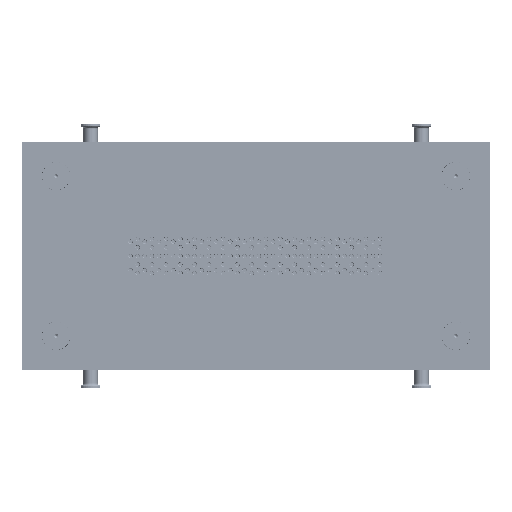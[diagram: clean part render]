
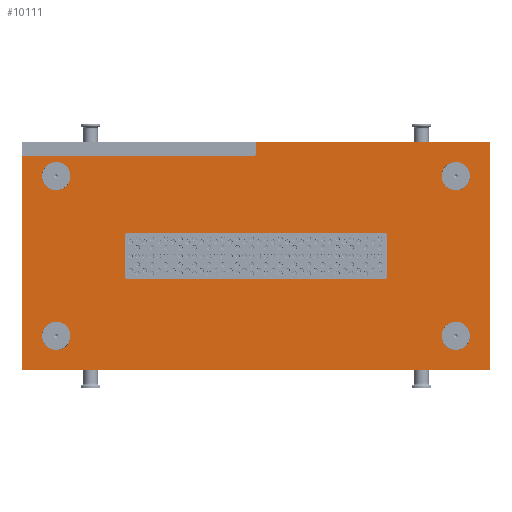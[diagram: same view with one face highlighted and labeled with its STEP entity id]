
A CAD part, left-side view. The second image highlights one B-rep face of the part: STEP entity #10111.
In plain terms, the highlighted planar face has unit normal (-1, 0, 0).
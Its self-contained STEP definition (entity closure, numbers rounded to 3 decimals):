
#10111=ADVANCED_FACE('',(#15616,#15618,#15620,#15622,#15624,#15626),#15628,.F.);
#15616=FACE_BOUND('',#15617,.T.);
#15617=EDGE_LOOP('',(#41220,#41221,#41222,#41223,#41224,#41225,#41226));
#15618=FACE_BOUND('',#15619,.T.);
#15619=EDGE_LOOP('',(#41227,#41228,#41229,#41230,#41231,#41232,#41233,#41234));
#15620=FACE_BOUND('',#15621,.T.);
#15621=EDGE_LOOP('',(#41235));
#15622=FACE_BOUND('',#15623,.T.);
#15623=EDGE_LOOP('',(#41236));
#15624=FACE_BOUND('',#15625,.T.);
#15625=EDGE_LOOP('',(#41237));
#15626=FACE_BOUND('',#15627,.T.);
#15627=EDGE_LOOP('',(#41238));
#15628=PLANE('',#15629);
#15629=AXIS2_PLACEMENT_3D('',#15630,#15631,#15632);
#15630=CARTESIAN_POINT('',(0.,0.,0.));
#15631=DIRECTION('',(1.,0.,0.));
#15632=DIRECTION('',(0.,1.,0.));
#41220=ORIENTED_EDGE('',*,*,#49375,.F.);
#41221=ORIENTED_EDGE('',*,*,#49372,.T.);
#41222=ORIENTED_EDGE('',*,*,#49302,.F.);
#41223=ORIENTED_EDGE('',*,*,#49311,.F.);
#41224=ORIENTED_EDGE('',*,*,#49309,.F.);
#41225=ORIENTED_EDGE('',*,*,#49304,.F.);
#41226=ORIENTED_EDGE('',*,*,#49376,.T.);
#41227=ORIENTED_EDGE('',*,*,#49324,.F.);
#41228=ORIENTED_EDGE('',*,*,#49338,.T.);
#41229=ORIENTED_EDGE('',*,*,#49336,.F.);
#41230=ORIENTED_EDGE('',*,*,#49335,.T.);
#41231=ORIENTED_EDGE('',*,*,#49332,.F.);
#41232=ORIENTED_EDGE('',*,*,#49330,.T.);
#41233=ORIENTED_EDGE('',*,*,#49328,.F.);
#41234=ORIENTED_EDGE('',*,*,#49326,.T.);
#41235=ORIENTED_EDGE('',*,*,#49377,.T.);
#41236=ORIENTED_EDGE('',*,*,#49378,.T.);
#41237=ORIENTED_EDGE('',*,*,#49379,.T.);
#41238=ORIENTED_EDGE('',*,*,#49380,.T.);
#49302=EDGE_CURVE('',#53469,#53463,#53471,.T.);
#49304=EDGE_CURVE('',#53473,#53475,#53476,.T.);
#49309=EDGE_CURVE('',#53475,#53483,#53484,.T.);
#49311=EDGE_CURVE('',#53483,#53469,#53486,.T.);
#49324=EDGE_CURVE('',#53509,#53511,#53512,.F.);
#49326=EDGE_CURVE('',#53514,#53511,#53515,.T.);
#49328=EDGE_CURVE('',#53514,#53517,#53518,.F.);
#49330=EDGE_CURVE('',#53520,#53517,#53521,.T.);
#49332=EDGE_CURVE('',#53520,#53523,#53524,.F.);
#49335=EDGE_CURVE('',#53526,#53523,#53528,.T.);
#49336=EDGE_CURVE('',#53526,#53529,#53530,.F.);
#49338=EDGE_CURVE('',#53509,#53529,#53532,.T.);
#49372=EDGE_CURVE('',#53596,#53463,#53599,.T.);
#49375=EDGE_CURVE('',#53596,#53603,#53604,.F.);
#49376=EDGE_CURVE('',#53473,#53603,#53605,.T.);
#49377=EDGE_CURVE('',#53606,#53606,#53607,.T.);
#49378=EDGE_CURVE('',#53608,#53608,#53609,.T.);
#49379=EDGE_CURVE('',#53610,#53610,#53611,.T.);
#49380=EDGE_CURVE('',#53612,#53612,#53613,.T.);
#53463=VERTEX_POINT('',#61422);
#53469=VERTEX_POINT('',#61434);
#53471=LINE('',#61438,#61439);
#53473=VERTEX_POINT('',#61442);
#53475=VERTEX_POINT('',#61446);
#53476=LINE('',#61447,#61448);
#53483=VERTEX_POINT('',#61466);
#53484=LINE('',#61467,#61468);
#53486=LINE('',#61473,#61474);
#53509=VERTEX_POINT('',#61531);
#53511=VERTEX_POINT('',#61535);
#53512=CIRCLE('',#61536,4.);
#53514=VERTEX_POINT('',#61543);
#53515=LINE('',#61544,#61545);
#53517=VERTEX_POINT('',#61550);
#53518=CIRCLE('',#61551,4.);
#53520=VERTEX_POINT('',#61558);
#53521=LINE('',#61559,#61560);
#53523=VERTEX_POINT('',#61565);
#53524=CIRCLE('',#61566,4.);
#53526=VERTEX_POINT('',#61573);
#53528=LINE('',#61577,#61578);
#53529=VERTEX_POINT('',#61580);
#53530=CIRCLE('',#61581,4.);
#53532=LINE('',#61588,#61589);
#53596=VERTEX_POINT('',#61747);
#53599=LINE('',#61754,#61755);
#53603=VERTEX_POINT('',#61765);
#53604=CIRCLE('',#61766,3.);
#53605=LINE('',#61770,#61771);
#53606=VERTEX_POINT('',#61773);
#53607=CIRCLE('',#61774,25.);
#53608=VERTEX_POINT('',#61778);
#53609=CIRCLE('',#61779,25.);
#53610=VERTEX_POINT('',#61783);
#53611=CIRCLE('',#61784,25.);
#53612=VERTEX_POINT('',#61788);
#53613=CIRCLE('',#61789,25.);
#61422=CARTESIAN_POINT('',(0.,820.,376.));
#61434=CARTESIAN_POINT('',(0.,820.,0.));
#61438=CARTESIAN_POINT('',(0.,820.,0.));
#61439=VECTOR('',#61440,1.);
#61440=DIRECTION('',(0.,0.,1.));
#61442=CARTESIAN_POINT('',(0.,410.,400.));
#61446=CARTESIAN_POINT('',(0.,0.,400.));
#61447=CARTESIAN_POINT('',(0.,410.,400.));
#61448=VECTOR('',#61449,1.);
#61449=DIRECTION('',(0.,-1.,0.));
#61466=CARTESIAN_POINT('',(0.,0.,0.));
#61467=CARTESIAN_POINT('',(0.,0.,400.));
#61468=VECTOR('',#61469,1.);
#61469=DIRECTION('',(0.,0.,-1.));
#61473=CARTESIAN_POINT('',(0.,0.,0.));
#61474=VECTOR('',#61475,1.);
#61475=DIRECTION('',(0.,1.,0.));
#61531=CARTESIAN_POINT('',(0.,636.,240.));
#61535=CARTESIAN_POINT('',(0.,640.,236.));
#61536=AXIS2_PLACEMENT_3D('',#61537,#61538,#61539);
#61537=CARTESIAN_POINT('',(0.,636.,236.));
#61538=DIRECTION('',(1.,0.,0.));
#61539=DIRECTION('',(0.,1.,0.));
#61543=CARTESIAN_POINT('',(0.,640.,164.));
#61544=CARTESIAN_POINT('',(0.,640.,164.));
#61545=VECTOR('',#61546,1.);
#61546=DIRECTION('',(0.,0.,1.));
#61550=CARTESIAN_POINT('',(0.,636.,160.));
#61551=AXIS2_PLACEMENT_3D('',#61552,#61553,#61554);
#61552=CARTESIAN_POINT('',(0.,636.,164.));
#61553=DIRECTION('',(1.,0.,0.));
#61554=DIRECTION('',(0.,0.,-1.));
#61558=CARTESIAN_POINT('',(0.,184.,160.));
#61559=CARTESIAN_POINT('',(0.,184.,160.));
#61560=VECTOR('',#61561,1.);
#61561=DIRECTION('',(0.,1.,0.));
#61565=CARTESIAN_POINT('',(0.,180.,164.));
#61566=AXIS2_PLACEMENT_3D('',#61567,#61568,#61569);
#61567=CARTESIAN_POINT('',(0.,184.,164.));
#61568=DIRECTION('',(1.,0.,0.));
#61569=DIRECTION('',(0.,-1.,0.));
#61573=CARTESIAN_POINT('',(0.,180.,236.));
#61577=CARTESIAN_POINT('',(0.,180.,236.));
#61578=VECTOR('',#61579,1.);
#61579=DIRECTION('',(0.,0.,-1.));
#61580=CARTESIAN_POINT('',(0.,184.,240.));
#61581=AXIS2_PLACEMENT_3D('',#61582,#61583,#61584);
#61582=CARTESIAN_POINT('',(0.,184.,236.));
#61583=DIRECTION('',(1.,0.,0.));
#61584=DIRECTION('',(0.,0.,1.));
#61588=CARTESIAN_POINT('',(0.,636.,240.));
#61589=VECTOR('',#61590,1.);
#61590=DIRECTION('',(0.,-1.,0.));
#61747=CARTESIAN_POINT('',(0.,413.,376.));
#61754=CARTESIAN_POINT('',(0.,413.,376.));
#61755=VECTOR('',#61756,1.);
#61756=DIRECTION('',(0.,1.,0.));
#61765=CARTESIAN_POINT('',(0.,410.,379.));
#61766=AXIS2_PLACEMENT_3D('',#61767,#61768,#61769);
#61767=CARTESIAN_POINT('',(0.,413.,379.));
#61768=DIRECTION('',(1.,0.,0.));
#61769=DIRECTION('',(0.,-1.,0.));
#61770=CARTESIAN_POINT('',(0.,410.,400.));
#61771=VECTOR('',#61772,1.);
#61772=DIRECTION('',(0.,0.,-1.));
#61773=CARTESIAN_POINT('',(0.,85.,60.));
#61774=AXIS2_PLACEMENT_3D('',#61775,#61776,#61777);
#61775=CARTESIAN_POINT('',(0.,60.,60.));
#61776=DIRECTION('',(1.,0.,0.));
#61777=DIRECTION('',(0.,1.,0.));
#61778=CARTESIAN_POINT('',(0.,85.,340.));
#61779=AXIS2_PLACEMENT_3D('',#61780,#61781,#61782);
#61780=CARTESIAN_POINT('',(0.,60.,340.));
#61781=DIRECTION('',(1.,0.,0.));
#61782=DIRECTION('',(0.,1.,0.));
#61783=CARTESIAN_POINT('',(0.,785.,340.));
#61784=AXIS2_PLACEMENT_3D('',#61785,#61786,#61787);
#61785=CARTESIAN_POINT('',(0.,760.,340.));
#61786=DIRECTION('',(1.,0.,0.));
#61787=DIRECTION('',(0.,1.,0.));
#61788=CARTESIAN_POINT('',(0.,785.,60.));
#61789=AXIS2_PLACEMENT_3D('',#61790,#61791,#61792);
#61790=CARTESIAN_POINT('',(0.,760.,60.));
#61791=DIRECTION('',(1.,0.,0.));
#61792=DIRECTION('',(0.,1.,0.));
